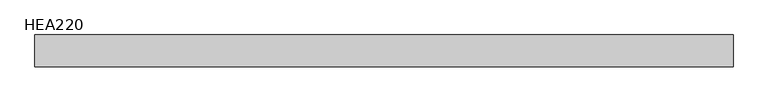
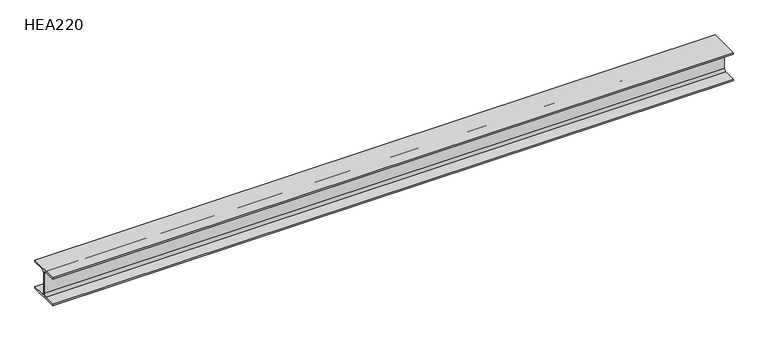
"""IFC4 building model written with IfcOpenShell, lengths in millimetres: beam geometry, HE-A : HEA220."""

from ifc_helpers import new_model, si_unit, point, frame, frame_2d, origin, place, context, project, spatial, polyline, circle_curve, trimmed, segment, composite_curve, outline, extrude, source, transform, mapped, element, save


def hea220_cdfd850b(model_context):
    return source(origin(), model_context, "Body", "SweptSolid", [
        extrude(outline(composite_curve([segment(polyline([(110.0, -94.0), (110.0, -105.0), (-110.0, -105.0), (-110.0, -94.0), (-21.5, -94.0)]), True, "CONTINUOUS"), segment(trimmed(circle_curve(frame_2d((-21.5, -76.0)), 18.0), [point((-21.5, -94.0))], [point((-3.5, -76.0))], True, "CARTESIAN"), True, "CONTINUOUS"), segment(polyline([(-3.5, -76.0), (-3.5, 76.0)]), True, "CONTINUOUS"), segment(trimmed(circle_curve(frame_2d((-21.5, 76.0)), 18.0), [point((-3.5, 76.0))], [point((-21.5, 94.0))], True, "CARTESIAN"), True, "CONTINUOUS"), segment(polyline([(-21.5, 94.0), (-110.0, 94.0), (-110.0, 105.0), (110.0, 105.0), (110.0, 94.0), (21.5, 94.0)]), True, "CONTINUOUS"), segment(trimmed(circle_curve(frame_2d((21.5, 76.0)), 18.0), [point((21.5, 94.0))], [point((3.5, 76.0))], True, "CARTESIAN"), True, "CONTINUOUS"), segment(polyline([(3.5, 76.0), (3.5, -76.0)]), True, "CONTINUOUS"), segment(trimmed(circle_curve(frame_2d((21.5, -76.0)), 18.0), [point((3.5, -76.0))], [point((21.5, -94.0))], True, "CARTESIAN"), True, "CONTINUOUS"), segment(polyline([(21.5, -94.0), (110.0, -94.0)]), True, "CONTINUOUS")], self_intersect=False)), frame((-2423.5, 0.0, 0.0), z_axis=(1.0, 0.0, 0.0), x_axis=(0.0, 1.0, 0.0)), (0.0, 0.0, 1.0), 4847.0),
    ])


if __name__ == "__main__":
    model = new_model("IFC4")
    model_context = context("Model", 3, world=origin())
    ifc_project = project(units=[si_unit("LENGTHUNIT", "METRE", prefix="MILLI")], contexts=[model_context])
    site = spatial("IfcSite", under=ifc_project)
    building = spatial("IfcBuilding", under=site)
    placement = place(None, origin())
    hea220_shape = hea220_cdfd850b(model_context)
    element("IfcBeam", 1, ObjectType="HE-A : HEA220", at=placement, inside=building, context=model_context, shape_type="MappedRepresentation", body=[
        mapped(hea220_shape, transform((0.0, 0.0, 0.0), x_axis=(1.0, 0.0, 0.0), y_axis=(0.0, 1.0, 0.0), z_axis=(0.0, 0.0, 1.0))),
    ])
    save(model, "model.ifc")
